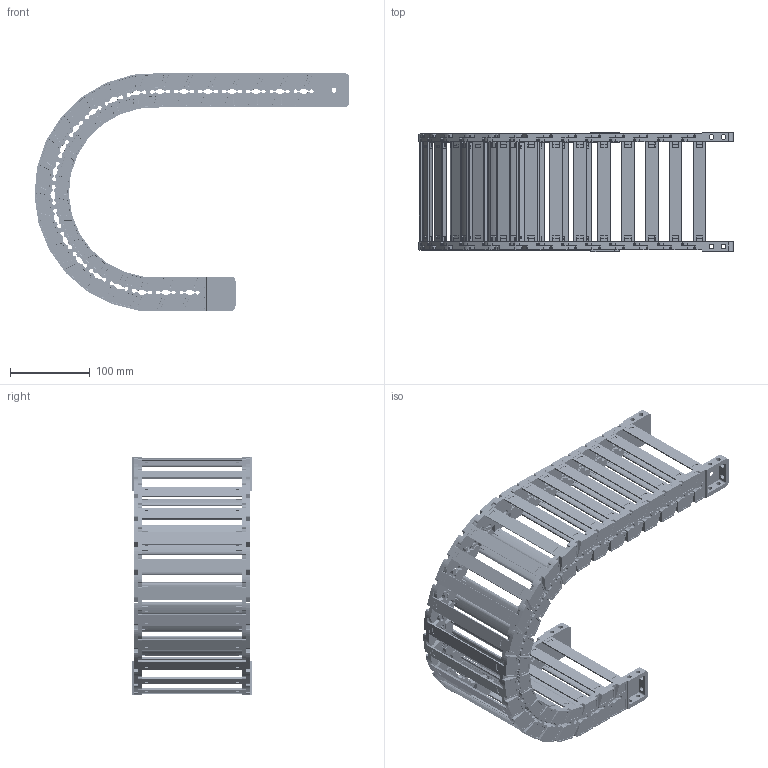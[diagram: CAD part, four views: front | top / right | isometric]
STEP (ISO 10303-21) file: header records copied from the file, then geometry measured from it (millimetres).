
FILE_DESCRIPTION((''),'2;1');
FILE_NAME('JY-35X125-R125_ASM','2025-01-05T19:48:25',('admin'),(''),'CREO PARAMETRIC BY PTC INC, 2021023','CREO PARAMETRIC BY PTC INC, 2021023','');
FILE_SCHEMA(('CONFIG_CONTROL_DESIGN'));
Length unit declared in the file: millimetre
Products named in the file (11): 35XL-L; YP; 35XL-R; ASM0001_ASM; 35-LTT-A-L; 35-LTT-A-R; 35XL-LTT-A_ASM; 35-LTT-B-L; 35-LTT-B-R; 35XL-LTT-B_ASM; JY-35X125-R125_ASM
Assembly tree (35 placements, depth 3):
  JY-35X125-R125_ASM
    ASM0001_ASM  x21
      35XL-L
      YP
      35XL-R
    35XL-LTT-A_ASM
      35-LTT-A-L
      YP  x2
      35-LTT-A-R
    35XL-LTT-B_ASM
      35-LTT-B-L
      YP  x2
      35-LTT-B-R
Bounding box: 395.09 x 149.5 x 298.23 mm (x, y, z)
Volume: 789941.9 mm3; surface area: 484521.8 mm2
Topology: 92 solids, 92 shells, 7504 faces, 22500 edges, 15188 vertices
Faces by surface type: plane 4246, cylinder 2466, cone 484, extrusion 176, bspline 132
Entity records: 27890 total; most frequent: CARTESIAN_POINT 6168, ORIENTED_EDGE 4640, DIRECTION 4365, EDGE_CURVE 2320, VERTEX_POINT 1568, AXIS2_PLACEMENT_3D 1474, VECTOR 1417, LINE 1401
